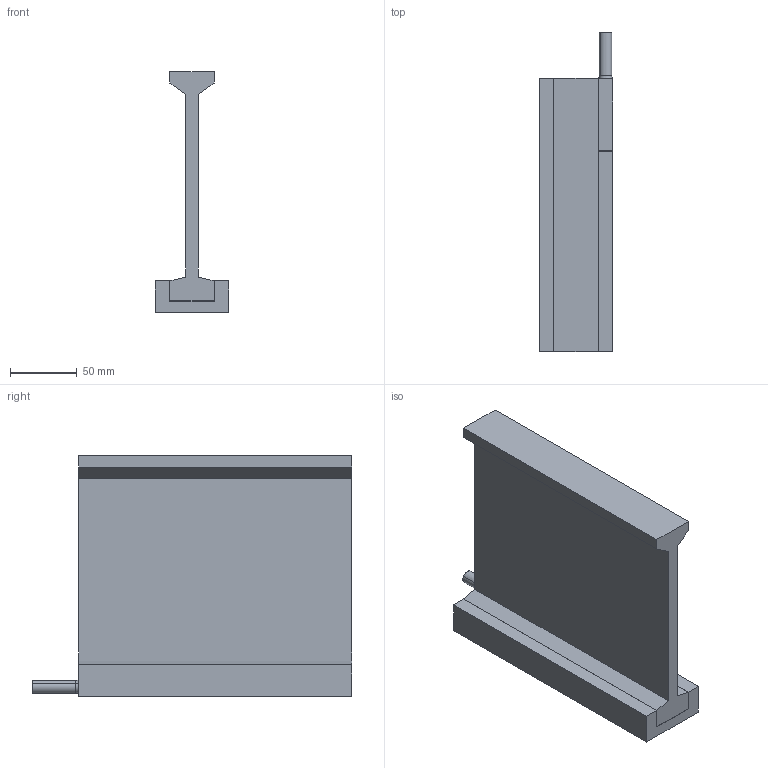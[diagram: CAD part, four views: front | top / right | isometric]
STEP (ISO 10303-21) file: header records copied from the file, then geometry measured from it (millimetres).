
FILE_DESCRIPTION (( 'STEP AP214' ), '1' );
FILE_NAME ('DX140F-C3-NH.STEP', '2021-07-16T04:15:14', ( '' ), ( '' ), 'SwSTEP 2.0', 'SolidWorks 2020', '' );
FILE_SCHEMA (( 'AUTOMOTIVE_DESIGN' ));
Length unit declared in the file: millimetre
Products named in the file (6): HEX SHCS M3x0.5x12(S.S)_B18.3.1M - 3 x 0.5 x 12 Hex SHCS -- 12CHX; DX140FCX01_C3 (CUSTOMER); TIM-PC 8850FT-LV (DX140F)_C3; DX140FNH01; DX140F-C3-NH; CBL_PWR_D10
Assembly tree (6 placements, depth 2):
  DX140F-C3-NH
    TIM-PC 8850FT-LV (DX140F)_C3
    DX140FCX01_C3 (CUSTOMER)
    DX140FNH01
    HEX SHCS M3x0.5x12(S.S)_B18.3.1M - 3 x 0.5 x 12 Hex SHCS -- 12CHX  x2
    CBL_PWR_D10
Bounding box: 55 x 240 x 180.6 mm (x, y, z)
Volume: 637046.5 mm3; surface area: 142527.1 mm2
Topology: 6 solids, 6 shells, 162 faces, 377 edges, 220 vertices
Faces by surface type: plane 76, cylinder 46, cone 34, torus 6
Entity records: 4067 total; most frequent: DIRECTION 683, CARTESIAN_POINT 626, ORIENTED_EDGE 590, EDGE_CURVE 295, AXIS2_PLACEMENT_3D 244, LINE 195, VECTOR 195, VERTEX_POINT 187
